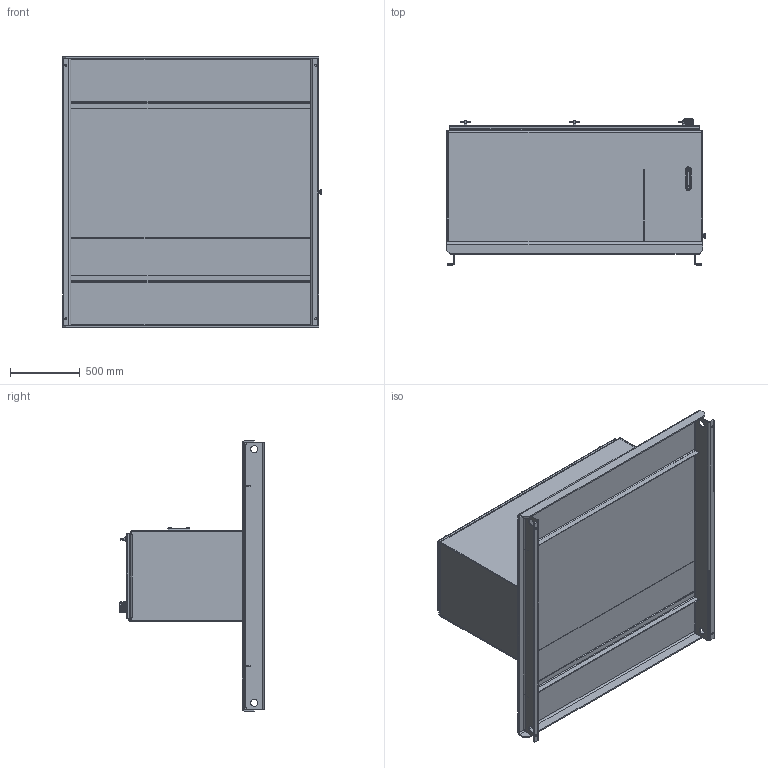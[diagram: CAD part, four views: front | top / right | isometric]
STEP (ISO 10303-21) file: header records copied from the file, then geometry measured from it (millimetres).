
FILE_DESCRIPTION (( 'STEP AP203' ), '1' );
FILE_NAME ('RTP150-HT.STEP', '2015-01-07T19:16:26', ( '' ), ( '' ), 'SwSTEP 2.0', 'SolidWorks 2014', '' );
FILE_SCHEMA (( 'CONFIG_CONTROL_DESIGN' ));
Length unit declared in the file: inch
Products named in the file (1): RTP150-HT
Bounding box: 1847.85 x 1042.22 x 1933.58 mm (x, y, z)
Volume: 67325070.6 mm3; surface area: 22029630.9 mm2
Topology: 62 solids, 240 shells, 3188 faces, 7014 edges, 4259 vertices
Faces by surface type: plane 1334, cylinder 1160, torus 407, bspline 136, cone 96, sphere 55
Entity records: 95557 total; most frequent: CARTESIAN_POINT 24885, DIRECTION 15606, ORIENTED_EDGE 13908, EDGE_CURVE 6954, AXIS2_PLACEMENT_3D 6068, VERTEX_POINT 4241, LINE 3470, VECTOR 3470
